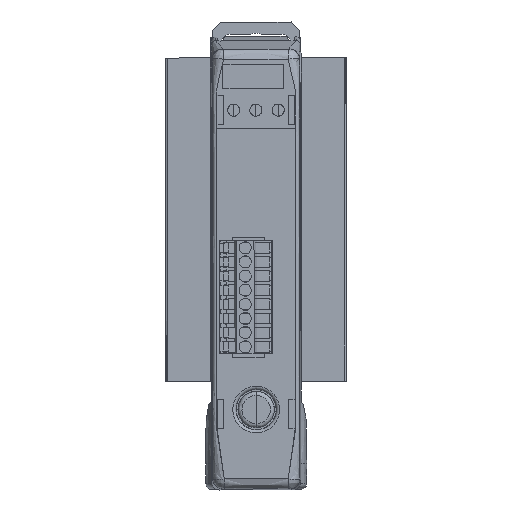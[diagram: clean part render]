
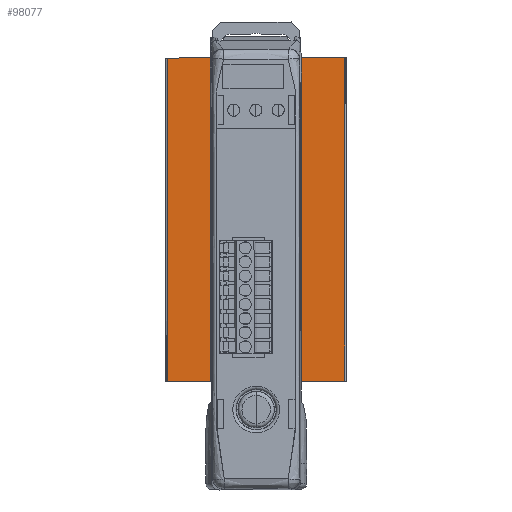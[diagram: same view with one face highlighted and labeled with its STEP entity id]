
A CAD part, top view. The second image highlights one B-rep face of the part: STEP entity #98077.
In plain terms, the highlighted planar face has unit normal (0, 0, 1).
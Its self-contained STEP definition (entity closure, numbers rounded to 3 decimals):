
#90625=CARTESIAN_POINT('',(1.621,-23.8,66.));
#90626=VERTEX_POINT('',#90625);
#90627=CARTESIAN_POINT('',(0.,-23.8,66.));
#90628=DIRECTION('',(0.,0.,-1.0));
#90629=DIRECTION('',(1.0,0.,0.));
#90630=AXIS2_PLACEMENT_3D('',#90627,#90628,#90629);
#90631=CIRCLE('',#90630,1.621);
#90632=EDGE_CURVE('',#90626,#90626,#90631,.T.);
#90704=CARTESIAN_POINT('',(1.621,23.8,66.));
#90705=VERTEX_POINT('',#90704);
#90706=CARTESIAN_POINT('',(0.,23.8,66.));
#90707=DIRECTION('',(0.,0.,-1.0));
#90708=DIRECTION('',(1.0,0.,0.));
#90709=AXIS2_PLACEMENT_3D('',#90706,#90707,#90708);
#90710=CIRCLE('',#90709,1.621);
#90711=EDGE_CURVE('',#90705,#90705,#90710,.T.);
#93131=CARTESIAN_POINT('',(21.95,40.,66.));
#93132=VERTEX_POINT('',#93131);
#93140=CARTESIAN_POINT('',(21.95,-40.,66.));
#93141=VERTEX_POINT('',#93140);
#93142=CARTESIAN_POINT('',(21.95,40.,66.));
#93143=DIRECTION('',(0.0,-1.0,0.0));
#93144=VECTOR('',#93143,80.);
#93145=LINE('',#93142,#93144);
#93146=EDGE_CURVE('',#93132,#93141,#93145,.T.);
#98023=CARTESIAN_POINT('',(-21.95,-40.,66.));
#98024=VERTEX_POINT('',#98023);
#98032=CARTESIAN_POINT('',(-21.95,40.,66.));
#98033=VERTEX_POINT('',#98032);
#98034=CARTESIAN_POINT('',(-21.95,40.,66.));
#98035=DIRECTION('',(0.0,-1.0,0.0));
#98036=VECTOR('',#98035,80.);
#98037=LINE('',#98034,#98036);
#98038=EDGE_CURVE('',#98033,#98024,#98037,.T.);
#98050=CARTESIAN_POINT('',(-24.145,-44.,66.));
#98051=DIRECTION('',(0.,0.,1.0));
#98052=DIRECTION('',(1.0,0.,0.));
#98053=AXIS2_PLACEMENT_3D('',#98050,#98051,#98052);
#98054=PLANE('',#98053);
#98055=CARTESIAN_POINT('',(-21.95,-40.,66.));
#98056=DIRECTION('',(1.0,0.,0.));
#98057=VECTOR('',#98056,43.9);
#98058=LINE('',#98055,#98057);
#98059=EDGE_CURVE('',#98024,#93141,#98058,.T.);
#98060=ORIENTED_EDGE('',*,*,#98059,.T.);
#98061=ORIENTED_EDGE('',*,*,#93146,.F.);
#98062=CARTESIAN_POINT('',(-21.95,40.,66.));
#98063=DIRECTION('',(1.0,0.,0.));
#98064=VECTOR('',#98063,43.9);
#98065=LINE('',#98062,#98064);
#98066=EDGE_CURVE('',#98033,#93132,#98065,.T.);
#98067=ORIENTED_EDGE('',*,*,#98066,.F.);
#98068=ORIENTED_EDGE('',*,*,#98038,.T.);
#98069=EDGE_LOOP('',(#98060,#98061,#98067,#98068));
#98070=FACE_OUTER_BOUND('',#98069,.T.);
#98071=ORIENTED_EDGE('',*,*,#90632,.T.);
#98072=EDGE_LOOP('',(#98071));
#98073=FACE_BOUND('',#98072,.T.);
#98074=ORIENTED_EDGE('',*,*,#90711,.T.);
#98075=EDGE_LOOP('',(#98074));
#98076=FACE_BOUND('',#98075,.T.);
#98077=ADVANCED_FACE('',(#98070,#98073,#98076),#98054,.T.);
